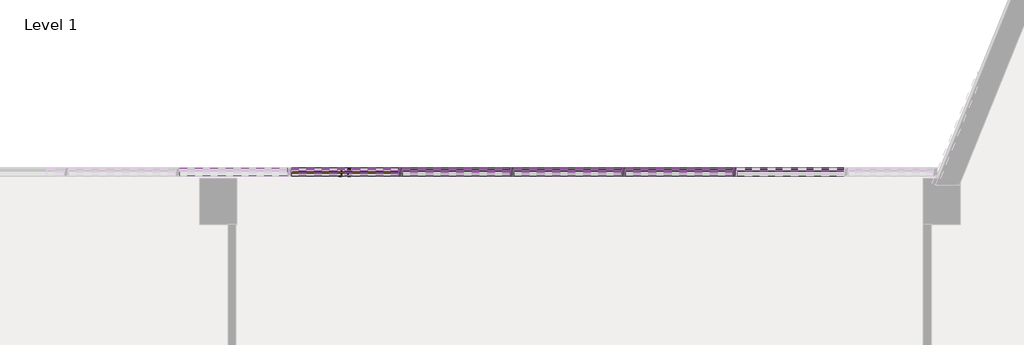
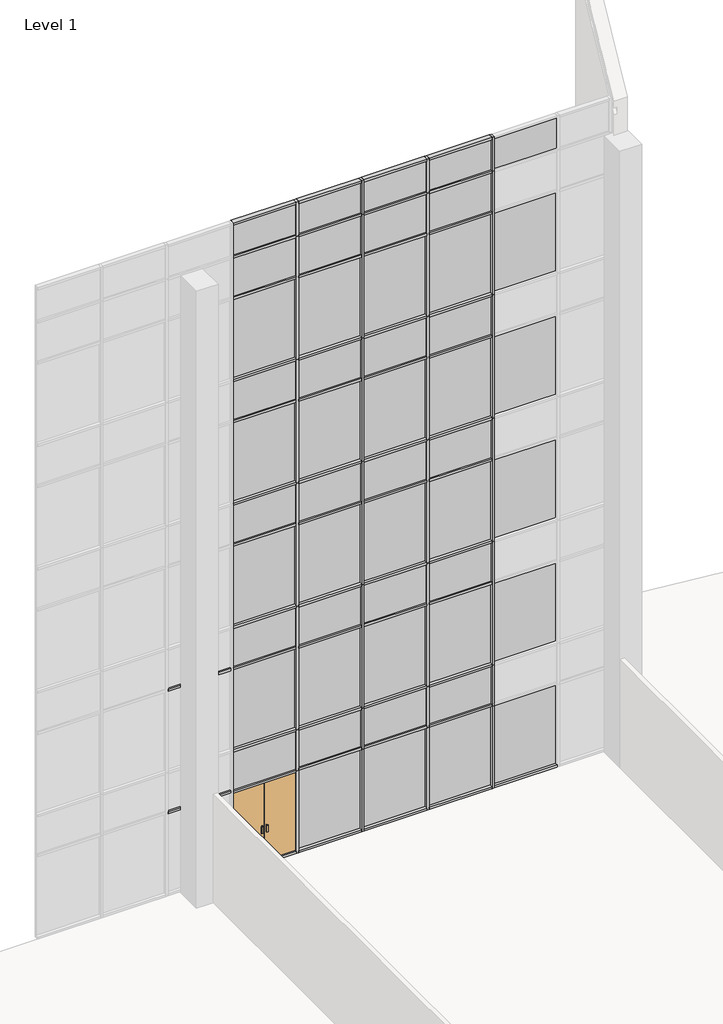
# One storey, part 14 of 23: 79 members, 49 plates, 1 door.
"""IFC4 building model written with IfcOpenShell, lengths in millimetres."""

from ifc_helpers import new_model, si_unit, origin, place, context, project, spatial, transform, mapped, element, save
from components import curtain_wall_dbl_glass_curtain_wall_dbl_glass_821f5a63, member_2b49869a, member_f92b8aa2, member_810865a4, member_f0fea5a5, member_6d5c3e5e, member_9764dd38, system_panel_glazed_14c75400, system_panel_solid_5dfe6f83, system_panel_solid_e25e2004, system_panel_solid_b7551183

model = new_model("IFC4")

# Units and contexts
model_context = context("Model", 3, world=origin())
ifc_project = project(units=[si_unit("LENGTHUNIT", "METRE", prefix="MILLI")], contexts=[model_context])

# Site, building, storey
site = spatial("IfcSite", under=ifc_project)
building = spatial("IfcBuilding", under=site)
storey = spatial("IfcBuildingStorey", under=building, Name="Level 1", Elevation=0.0)

# Door
placement = place(None, origin())
curtain_wall_dbl_glass_curtain_wall_dbl_glass_shape = curtain_wall_dbl_glass_curtain_wall_dbl_glass_821f5a63(model_context)
element("IfcDoor", 1, ObjectType="Curtain Wall Dbl Glass : Curtain Wall Dbl Glass", at=placement, inside=storey, context=model_context, shape_type="MappedRepresentation", body=[
    mapped(curtain_wall_dbl_glass_curtain_wall_dbl_glass_shape, transform((-42545.8623649, 10017.7896508, 63.5), x_axis=(1.0, 0.0, 0.0), y_axis=(0.0, 1.0, 0.0), z_axis=(0.0, 0.0, 1.0))),
])

# Members
member_shape = member_2b49869a(model_context)
element("IfcMember", 2, ObjectType="Rectangular Mullion : 2.5\" x 5\" rectangular", at=placement, inside=storey, context=model_context, shape_type="MappedRepresentation", body=[
    mapped(member_shape, transform((-37973.8623649, 10017.7896508, 2438.4), x_axis=(1.0, 0.0, 0.0), y_axis=(0.0, -1.0, 0.0), z_axis=(0.0, 0.0, -1.0))),
])
element("IfcMember", 3, ObjectType="Rectangular Mullion : 2.5\" x 5\" rectangular", at=placement, inside=storey, context=model_context, shape_type="MappedRepresentation", body=[
    mapped(member_shape, transform((-39802.6623649, 10017.7896508, 2438.4), x_axis=(1.0, 0.0, 0.0), y_axis=(0.0, -1.0, 0.0), z_axis=(0.0, 0.0, -1.0))),
])
element("IfcMember", 4, ObjectType="Rectangular Mullion : 2.5\" x 5\" rectangular", at=placement, inside=storey, context=model_context, shape_type="MappedRepresentation", body=[
    mapped(member_shape, transform((-36145.0623649, 10017.7896508, 2438.4), x_axis=(1.0, 0.0, 0.0), y_axis=(0.0, -1.0, 0.0), z_axis=(0.0, 0.0, -1.0))),
])
member_2_shape = member_f92b8aa2(model_context)
element("IfcMember", 5, ObjectType="Rectangular Mullion : 2.5\" x 5\" rectangular", at=placement, inside=storey, context=model_context, shape_type="MappedRepresentation", body=[
    mapped(member_2_shape, transform((-37973.8623649, 10017.7896508, 18288.0), x_axis=(1.0, 0.0, 0.0), y_axis=(0.0, -1.0, 0.0), z_axis=(0.0, 0.0, -1.0))),
])
element("IfcMember", 6, ObjectType="Rectangular Mullion : 2.5\" x 5\" rectangular", at=placement, inside=storey, context=model_context, shape_type="MappedRepresentation", body=[
    mapped(member_2_shape, transform((-39802.6623649, 10017.7896508, 18288.0), x_axis=(1.0, 0.0, 0.0), y_axis=(0.0, -1.0, 0.0), z_axis=(0.0, 0.0, -1.0))),
])
element("IfcMember", 7, ObjectType="Rectangular Mullion : 2.5\" x 5\" rectangular", at=placement, inside=storey, context=model_context, shape_type="MappedRepresentation", body=[
    mapped(member_2_shape, transform((-41631.4623649, 10017.7896508, 18288.0), x_axis=(1.0, 0.0, 0.0), y_axis=(0.0, -1.0, 0.0), z_axis=(0.0, 0.0, -1.0))),
])
element("IfcMember", 8, ObjectType="Rectangular Mullion : 2.5\" x 5\" rectangular", at=placement, inside=storey, context=model_context, shape_type="MappedRepresentation", body=[
    mapped(member_2_shape, transform((-36145.0623649, 10017.7896508, 18288.0), x_axis=(1.0, 0.0, 0.0), y_axis=(0.0, -1.0, 0.0), z_axis=(0.0, 0.0, -1.0))),
])
member_3_shape = member_810865a4(model_context)
element("IfcMember", 9, ObjectType="Rectangular Mullion : 2.5\" x 5\" rectangular", at=placement, inside=storey, context=model_context, shape_type="MappedRepresentation", body=[
    mapped(member_3_shape, transform((-36145.0623649, 10017.7896508, 14630.4), x_axis=(1.0, 0.0, 0.0), y_axis=(0.0, -1.0, 0.0), z_axis=(0.0, 0.0, -1.0))),
])
element("IfcMember", 10, ObjectType="Rectangular Mullion : 2.5\" x 5\" rectangular", at=placement, inside=storey, context=model_context, shape_type="MappedRepresentation", body=[
    mapped(member_3_shape, transform((-36145.0623649, 10017.7896508, 10972.8), x_axis=(1.0, 0.0, 0.0), y_axis=(0.0, -1.0, 0.0), z_axis=(0.0, 0.0, -1.0))),
])
element("IfcMember", 11, ObjectType="Rectangular Mullion : 2.5\" x 5\" rectangular", at=placement, inside=storey, context=model_context, shape_type="MappedRepresentation", body=[
    mapped(member_3_shape, transform((-36145.0623649, 10017.7896508, 7315.2), x_axis=(1.0, 0.0, 0.0), y_axis=(0.0, -1.0, 0.0), z_axis=(0.0, 0.0, -1.0))),
])
element("IfcMember", 12, ObjectType="Rectangular Mullion : 2.5\" x 5\" rectangular", at=placement, inside=storey, context=model_context, shape_type="MappedRepresentation", body=[
    mapped(member_3_shape, transform((-36145.0623649, 10017.7896508, 3657.6), x_axis=(1.0, 0.0, 0.0), y_axis=(0.0, -1.0, 0.0), z_axis=(0.0, 0.0, -1.0))),
])
element("IfcMember", 13, ObjectType="Rectangular Mullion : 2.5\" x 5\" rectangular", at=placement, inside=storey, context=model_context, shape_type="MappedRepresentation", body=[
    mapped(member_3_shape, transform((-37973.8623649, 10017.7896508, 14630.4), x_axis=(1.0, 0.0, 0.0), y_axis=(0.0, -1.0, 0.0), z_axis=(0.0, 0.0, -1.0))),
])
element("IfcMember", 14, ObjectType="Rectangular Mullion : 2.5\" x 5\" rectangular", at=placement, inside=storey, context=model_context, shape_type="MappedRepresentation", body=[
    mapped(member_3_shape, transform((-37973.8623649, 10017.7896508, 10972.8), x_axis=(1.0, 0.0, 0.0), y_axis=(0.0, -1.0, 0.0), z_axis=(0.0, 0.0, -1.0))),
])
element("IfcMember", 15, ObjectType="Rectangular Mullion : 2.5\" x 5\" rectangular", at=placement, inside=storey, context=model_context, shape_type="MappedRepresentation", body=[
    mapped(member_3_shape, transform((-37973.8623649, 10017.7896508, 7315.2), x_axis=(1.0, 0.0, 0.0), y_axis=(0.0, -1.0, 0.0), z_axis=(0.0, 0.0, -1.0))),
])
element("IfcMember", 16, ObjectType="Rectangular Mullion : 2.5\" x 5\" rectangular", at=placement, inside=storey, context=model_context, shape_type="MappedRepresentation", body=[
    mapped(member_3_shape, transform((-37973.8623649, 10017.7896508, 3657.6), x_axis=(1.0, 0.0, 0.0), y_axis=(0.0, -1.0, 0.0), z_axis=(0.0, 0.0, -1.0))),
])
element("IfcMember", 17, ObjectType="Rectangular Mullion : 2.5\" x 5\" rectangular", at=placement, inside=storey, context=model_context, shape_type="MappedRepresentation", body=[
    mapped(member_3_shape, transform((-39802.6623649, 10017.7896508, 14630.4), x_axis=(1.0, 0.0, 0.0), y_axis=(0.0, -1.0, 0.0), z_axis=(0.0, 0.0, -1.0))),
])
element("IfcMember", 18, ObjectType="Rectangular Mullion : 2.5\" x 5\" rectangular", at=placement, inside=storey, context=model_context, shape_type="MappedRepresentation", body=[
    mapped(member_3_shape, transform((-39802.6623649, 10017.7896508, 10972.8), x_axis=(1.0, 0.0, 0.0), y_axis=(0.0, -1.0, 0.0), z_axis=(0.0, 0.0, -1.0))),
])
element("IfcMember", 19, ObjectType="Rectangular Mullion : 2.5\" x 5\" rectangular", at=placement, inside=storey, context=model_context, shape_type="MappedRepresentation", body=[
    mapped(member_3_shape, transform((-39802.6623649, 10017.7896508, 7315.2), x_axis=(1.0, 0.0, 0.0), y_axis=(0.0, -1.0, 0.0), z_axis=(0.0, 0.0, -1.0))),
])
element("IfcMember", 20, ObjectType="Rectangular Mullion : 2.5\" x 5\" rectangular", at=placement, inside=storey, context=model_context, shape_type="MappedRepresentation", body=[
    mapped(member_3_shape, transform((-39802.6623649, 10017.7896508, 3657.6), x_axis=(1.0, 0.0, 0.0), y_axis=(0.0, -1.0, 0.0), z_axis=(0.0, 0.0, -1.0))),
])
element("IfcMember", 21, ObjectType="Rectangular Mullion : 2.5\" x 5\" rectangular", at=placement, inside=storey, context=model_context, shape_type="MappedRepresentation", body=[
    mapped(member_3_shape, transform((-41631.4623649, 10017.7896508, 14630.4), x_axis=(1.0, 0.0, 0.0), y_axis=(0.0, -1.0, 0.0), z_axis=(0.0, 0.0, -1.0))),
])
element("IfcMember", 22, ObjectType="Rectangular Mullion : 2.5\" x 5\" rectangular", at=placement, inside=storey, context=model_context, shape_type="MappedRepresentation", body=[
    mapped(member_3_shape, transform((-41631.4623649, 10017.7896508, 10972.8), x_axis=(1.0, 0.0, 0.0), y_axis=(0.0, -1.0, 0.0), z_axis=(0.0, 0.0, -1.0))),
])
element("IfcMember", 23, ObjectType="Rectangular Mullion : 2.5\" x 5\" rectangular", at=placement, inside=storey, context=model_context, shape_type="MappedRepresentation", body=[
    mapped(member_3_shape, transform((-41631.4623649, 10017.7896508, 7315.2), x_axis=(1.0, 0.0, 0.0), y_axis=(0.0, -1.0, 0.0), z_axis=(0.0, 0.0, -1.0))),
])
element("IfcMember", 24, ObjectType="Rectangular Mullion : 2.5\" x 5\" rectangular", at=placement, inside=storey, context=model_context, shape_type="MappedRepresentation", body=[
    mapped(member_3_shape, transform((-41631.4623649, 10017.7896508, 3657.6), x_axis=(1.0, 0.0, 0.0), y_axis=(0.0, -1.0, 0.0), z_axis=(0.0, 0.0, -1.0))),
])
member_4_shape = member_f0fea5a5(model_context)
element("IfcMember", 25, ObjectType="Rectangular Mullion : 2.5\" x 5\" rectangular", at=placement, inside=storey, context=model_context, shape_type="MappedRepresentation", body=[
    mapped(member_4_shape, transform((-36145.0623649, 10017.7896508, 0.0), x_axis=(1.0, 0.0, 0.0), y_axis=(0.0, -1.0, 0.0), z_axis=(0.0, 0.0, -1.0))),
])
element("IfcMember", 26, ObjectType="Rectangular Mullion : 2.5\" x 5\" rectangular", at=placement, inside=storey, context=model_context, shape_type="MappedRepresentation", body=[
    mapped(member_4_shape, transform((-37973.8623649, 10017.7896508, 0.0), x_axis=(1.0, 0.0, 0.0), y_axis=(0.0, -1.0, 0.0), z_axis=(0.0, 0.0, -1.0))),
])
element("IfcMember", 27, ObjectType="Rectangular Mullion : 2.5\" x 5\" rectangular", at=placement, inside=storey, context=model_context, shape_type="MappedRepresentation", body=[
    mapped(member_4_shape, transform((-39802.6623649, 10017.7896508, 0.0), x_axis=(1.0, 0.0, 0.0), y_axis=(0.0, -1.0, 0.0), z_axis=(0.0, 0.0, -1.0))),
])
element("IfcMember", 28, ObjectType="Rectangular Mullion : 2.5\" x 5\" rectangular", at=placement, inside=storey, context=model_context, shape_type="MappedRepresentation", body=[
    mapped(member_4_shape, transform((-41631.4623649, 10017.7896508, 0.0), x_axis=(1.0, 0.0, 0.0), y_axis=(0.0, -1.0, 0.0), z_axis=(0.0, 0.0, -1.0))),
])
element("IfcMember", 29, ObjectType="Rectangular Mullion : 2.5\" x 5\" rectangular", at=placement, inside=storey, context=model_context, shape_type="MappedRepresentation", body=[
    mapped(member_shape, transform((-41631.4623649, 10017.7896508, 2438.4), x_axis=(1.0, 0.0, 0.0), y_axis=(0.0, -1.0, 0.0), z_axis=(0.0, 0.0, -1.0))),
])
member_5_shape = member_6d5c3e5e(model_context)
element("IfcMember", 30, ObjectType="Rectangular Mullion : 2.5\" x 5\" rectangular", at=placement, inside=storey, context=model_context, shape_type="MappedRepresentation", body=[
    mapped(member_5_shape, transform((-36176.8123649, 10017.7896508, 19304.0), x_axis=(0.0, 0.0, 1.0), y_axis=(0.0, -1.0, 0.0), z_axis=(1.0, 0.0, 0.0))),
])
element("IfcMember", 31, ObjectType="Rectangular Mullion : 2.5\" x 5\" rectangular", at=placement, inside=storey, context=model_context, shape_type="MappedRepresentation", body=[
    mapped(member_5_shape, transform((-38005.6123649, 10017.7896508, 19304.0), x_axis=(0.0, 0.0, 1.0), y_axis=(0.0, -1.0, 0.0), z_axis=(1.0, 0.0, 0.0))),
])
element("IfcMember", 32, ObjectType="Rectangular Mullion : 2.5\" x 5\" rectangular", at=placement, inside=storey, context=model_context, shape_type="MappedRepresentation", body=[
    mapped(member_5_shape, transform((-39834.4123649, 10017.7896508, 19304.0), x_axis=(0.0, 0.0, 1.0), y_axis=(0.0, -1.0, 0.0), z_axis=(1.0, 0.0, 0.0))),
])
element("IfcMember", 33, ObjectType="Rectangular Mullion : 2.5\" x 5\" rectangular", at=placement, inside=storey, context=model_context, shape_type="MappedRepresentation", body=[
    mapped(member_5_shape, transform((-41663.2123649, 10017.7896508, 19304.0), x_axis=(0.0, 0.0, 1.0), y_axis=(0.0, -1.0, 0.0), z_axis=(1.0, 0.0, 0.0))),
])
member_6_shape = member_9764dd38(model_context)
element("IfcMember", 34, ObjectType="Rectangular Mullion : 2.5\" x 5\" rectangular", at=placement, inside=storey, context=model_context, shape_type="MappedRepresentation", body=[
    mapped(member_6_shape, transform((-36176.8123649, 10017.7896508, 17068.8), x_axis=(0.0, 0.0, 1.0), y_axis=(0.0, -1.0, 0.0), z_axis=(1.0, 0.0, 0.0))),
])
element("IfcMember", 35, ObjectType="Rectangular Mullion : 2.5\" x 5\" rectangular", at=placement, inside=storey, context=model_context, shape_type="MappedRepresentation", body=[
    mapped(member_6_shape, transform((-38005.6123649, 10017.7896508, 17068.8), x_axis=(0.0, 0.0, 1.0), y_axis=(0.0, -1.0, 0.0), z_axis=(1.0, 0.0, 0.0))),
])
element("IfcMember", 36, ObjectType="Rectangular Mullion : 2.5\" x 5\" rectangular", at=placement, inside=storey, context=model_context, shape_type="MappedRepresentation", body=[
    mapped(member_6_shape, transform((-39834.4123649, 10017.7896508, 17068.8), x_axis=(0.0, 0.0, 1.0), y_axis=(0.0, -1.0, 0.0), z_axis=(1.0, 0.0, 0.0))),
])
element("IfcMember", 37, ObjectType="Rectangular Mullion : 2.5\" x 5\" rectangular", at=placement, inside=storey, context=model_context, shape_type="MappedRepresentation", body=[
    mapped(member_6_shape, transform((-41663.2123649, 10017.7896508, 17068.8), x_axis=(0.0, 0.0, 1.0), y_axis=(0.0, -1.0, 0.0), z_axis=(1.0, 0.0, 0.0))),
])
element("IfcMember", 38, ObjectType="Rectangular Mullion : 2.5\" x 5\" rectangular", at=placement, inside=storey, context=model_context, shape_type="MappedRepresentation", body=[
    mapped(member_6_shape, transform((-36176.8123649, 10017.7896508, 13411.2), x_axis=(0.0, 0.0, 1.0), y_axis=(0.0, -1.0, 0.0), z_axis=(1.0, 0.0, 0.0))),
])
element("IfcMember", 39, ObjectType="Rectangular Mullion : 2.5\" x 5\" rectangular", at=placement, inside=storey, context=model_context, shape_type="MappedRepresentation", body=[
    mapped(member_6_shape, transform((-38005.6123649, 10017.7896508, 13411.2), x_axis=(0.0, 0.0, 1.0), y_axis=(0.0, -1.0, 0.0), z_axis=(1.0, 0.0, 0.0))),
])
element("IfcMember", 40, ObjectType="Rectangular Mullion : 2.5\" x 5\" rectangular", at=placement, inside=storey, context=model_context, shape_type="MappedRepresentation", body=[
    mapped(member_6_shape, transform((-39834.4123649, 10017.7896508, 13411.2), x_axis=(0.0, 0.0, 1.0), y_axis=(0.0, -1.0, 0.0), z_axis=(1.0, 0.0, 0.0))),
])
element("IfcMember", 41, ObjectType="Rectangular Mullion : 2.5\" x 5\" rectangular", at=placement, inside=storey, context=model_context, shape_type="MappedRepresentation", body=[
    mapped(member_6_shape, transform((-41663.2123649, 10017.7896508, 13411.2), x_axis=(0.0, 0.0, 1.0), y_axis=(0.0, -1.0, 0.0), z_axis=(1.0, 0.0, 0.0))),
])
element("IfcMember", 42, ObjectType="Rectangular Mullion : 2.5\" x 5\" rectangular", at=placement, inside=storey, context=model_context, shape_type="MappedRepresentation", body=[
    mapped(member_6_shape, transform((-36176.8123649, 10017.7896508, 9753.6), x_axis=(0.0, 0.0, 1.0), y_axis=(0.0, -1.0, 0.0), z_axis=(1.0, 0.0, 0.0))),
])
element("IfcMember", 43, ObjectType="Rectangular Mullion : 2.5\" x 5\" rectangular", at=placement, inside=storey, context=model_context, shape_type="MappedRepresentation", body=[
    mapped(member_6_shape, transform((-38005.6123649, 10017.7896508, 9753.6), x_axis=(0.0, 0.0, 1.0), y_axis=(0.0, -1.0, 0.0), z_axis=(1.0, 0.0, 0.0))),
])
element("IfcMember", 44, ObjectType="Rectangular Mullion : 2.5\" x 5\" rectangular", at=placement, inside=storey, context=model_context, shape_type="MappedRepresentation", body=[
    mapped(member_6_shape, transform((-39834.4123649, 10017.7896508, 9753.6), x_axis=(0.0, 0.0, 1.0), y_axis=(0.0, -1.0, 0.0), z_axis=(1.0, 0.0, 0.0))),
])
element("IfcMember", 45, ObjectType="Rectangular Mullion : 2.5\" x 5\" rectangular", at=placement, inside=storey, context=model_context, shape_type="MappedRepresentation", body=[
    mapped(member_6_shape, transform((-41663.2123649, 10017.7896508, 9753.6), x_axis=(0.0, 0.0, 1.0), y_axis=(0.0, -1.0, 0.0), z_axis=(1.0, 0.0, 0.0))),
])
element("IfcMember", 46, ObjectType="Rectangular Mullion : 2.5\" x 5\" rectangular", at=placement, inside=storey, context=model_context, shape_type="MappedRepresentation", body=[
    mapped(member_6_shape, transform((-36176.8123649, 10017.7896508, 6096.0), x_axis=(0.0, 0.0, 1.0), y_axis=(0.0, -1.0, 0.0), z_axis=(1.0, 0.0, 0.0))),
])
element("IfcMember", 47, ObjectType="Rectangular Mullion : 2.5\" x 5\" rectangular", at=placement, inside=storey, context=model_context, shape_type="MappedRepresentation", body=[
    mapped(member_6_shape, transform((-38005.6123649, 10017.7896508, 6096.0), x_axis=(0.0, 0.0, 1.0), y_axis=(0.0, -1.0, 0.0), z_axis=(1.0, 0.0, 0.0))),
])
element("IfcMember", 48, ObjectType="Rectangular Mullion : 2.5\" x 5\" rectangular", at=placement, inside=storey, context=model_context, shape_type="MappedRepresentation", body=[
    mapped(member_6_shape, transform((-39834.4123649, 10017.7896508, 6096.0), x_axis=(0.0, 0.0, 1.0), y_axis=(0.0, -1.0, 0.0), z_axis=(1.0, 0.0, 0.0))),
])
element("IfcMember", 49, ObjectType="Rectangular Mullion : 2.5\" x 5\" rectangular", at=placement, inside=storey, context=model_context, shape_type="MappedRepresentation", body=[
    mapped(member_6_shape, transform((-41663.2123649, 10017.7896508, 6096.0), x_axis=(0.0, 0.0, 1.0), y_axis=(0.0, -1.0, 0.0), z_axis=(1.0, 0.0, 0.0))),
])
element("IfcMember", 50, ObjectType="Rectangular Mullion : 2.5\" x 5\" rectangular", at=placement, inside=storey, context=model_context, shape_type="MappedRepresentation", body=[
    mapped(member_6_shape, transform((-43492.0123649, 10017.7896508, 6096.0), x_axis=(0.0, 0.0, 1.0), y_axis=(0.0, -1.0, 0.0), z_axis=(1.0, 0.0, 0.0))),
])
element("IfcMember", 51, ObjectType="Rectangular Mullion : 2.5\" x 5\" rectangular", at=placement, inside=storey, context=model_context, shape_type="MappedRepresentation", body=[
    mapped(member_6_shape, transform((-36176.8123649, 10017.7896508, 2470.15), x_axis=(0.0, 0.0, 1.0), y_axis=(0.0, -1.0, 0.0), z_axis=(1.0, 0.0, 0.0))),
])
element("IfcMember", 52, ObjectType="Rectangular Mullion : 2.5\" x 5\" rectangular", at=placement, inside=storey, context=model_context, shape_type="MappedRepresentation", body=[
    mapped(member_6_shape, transform((-38005.6123649, 10017.7896508, 2470.15), x_axis=(0.0, 0.0, 1.0), y_axis=(0.0, -1.0, 0.0), z_axis=(1.0, 0.0, 0.0))),
])
element("IfcMember", 53, ObjectType="Rectangular Mullion : 2.5\" x 5\" rectangular", at=placement, inside=storey, context=model_context, shape_type="MappedRepresentation", body=[
    mapped(member_6_shape, transform((-39834.4123649, 10017.7896508, 2470.15), x_axis=(0.0, 0.0, 1.0), y_axis=(0.0, -1.0, 0.0), z_axis=(1.0, 0.0, 0.0))),
])
element("IfcMember", 54, ObjectType="Rectangular Mullion : 2.5\" x 5\" rectangular", at=placement, inside=storey, context=model_context, shape_type="MappedRepresentation", body=[
    mapped(member_6_shape, transform((-43492.0123649, 10017.7896508, 2470.15), x_axis=(0.0, 0.0, 1.0), y_axis=(0.0, -1.0, 0.0), z_axis=(1.0, 0.0, 0.0))),
])
element("IfcMember", 55, ObjectType="Rectangular Mullion : 2.5\" x 5\" rectangular", at=placement, inside=storey, context=model_context, shape_type="MappedRepresentation", body=[
    mapped(member_5_shape, transform((-36113.3123649, 10017.7896508, 0.0), x_axis=(0.0, 0.0, -1.0), y_axis=(0.0, -1.0, 0.0), z_axis=(-1.0, 0.0, 0.0))),
])
element("IfcMember", 56, ObjectType="Rectangular Mullion : 2.5\" x 5\" rectangular", at=placement, inside=storey, context=model_context, shape_type="MappedRepresentation", body=[
    mapped(member_5_shape, transform((-37942.1123649, 10017.7896508, 0.0), x_axis=(0.0, 0.0, -1.0), y_axis=(0.0, -1.0, 0.0), z_axis=(-1.0, 0.0, 0.0))),
])
element("IfcMember", 57, ObjectType="Rectangular Mullion : 2.5\" x 5\" rectangular", at=placement, inside=storey, context=model_context, shape_type="MappedRepresentation", body=[
    mapped(member_5_shape, transform((-39770.9123649, 10017.7896508, 0.0), x_axis=(0.0, 0.0, -1.0), y_axis=(0.0, -1.0, 0.0), z_axis=(-1.0, 0.0, 0.0))),
])
element("IfcMember", 58, ObjectType="Rectangular Mullion : 2.5\" x 5\" rectangular", at=placement, inside=storey, context=model_context, shape_type="MappedRepresentation", body=[
    mapped(member_5_shape, transform((-41599.7123649, 10017.7896508, 0.0), x_axis=(0.0, 0.0, -1.0), y_axis=(0.0, -1.0, 0.0), z_axis=(-1.0, 0.0, 0.0))),
])
element("IfcMember", 59, ObjectType="Rectangular Mullion : 2.5\" x 5\" rectangular", at=placement, inside=storey, context=model_context, shape_type="MappedRepresentation", body=[
    mapped(member_5_shape, transform((-43428.5123649, 10017.7896508, 0.0), x_axis=(0.0, 0.0, -1.0), y_axis=(0.0, -1.0, 0.0), z_axis=(-1.0, 0.0, 0.0))),
])
element("IfcMember", 60, ObjectType="Rectangular Mullion : 2.5\" x 5\" rectangular", at=placement, inside=storey, context=model_context, shape_type="MappedRepresentation", body=[
    mapped(member_6_shape, transform((-36176.8123649, 10017.7896508, 10972.8), x_axis=(0.0, 0.0, 1.0), y_axis=(0.0, -1.0, 0.0), z_axis=(1.0, 0.0, 0.0))),
])
element("IfcMember", 61, ObjectType="Rectangular Mullion : 2.5\" x 5\" rectangular", at=placement, inside=storey, context=model_context, shape_type="MappedRepresentation", body=[
    mapped(member_6_shape, transform((-38005.6123649, 10017.7896508, 10972.8), x_axis=(0.0, 0.0, 1.0), y_axis=(0.0, -1.0, 0.0), z_axis=(1.0, 0.0, 0.0))),
])
element("IfcMember", 62, ObjectType="Rectangular Mullion : 2.5\" x 5\" rectangular", at=placement, inside=storey, context=model_context, shape_type="MappedRepresentation", body=[
    mapped(member_6_shape, transform((-39834.4123649, 10017.7896508, 10972.8), x_axis=(0.0, 0.0, 1.0), y_axis=(0.0, -1.0, 0.0), z_axis=(1.0, 0.0, 0.0))),
])
element("IfcMember", 63, ObjectType="Rectangular Mullion : 2.5\" x 5\" rectangular", at=placement, inside=storey, context=model_context, shape_type="MappedRepresentation", body=[
    mapped(member_6_shape, transform((-41663.2123649, 10017.7896508, 10972.8), x_axis=(0.0, 0.0, 1.0), y_axis=(0.0, -1.0, 0.0), z_axis=(1.0, 0.0, 0.0))),
])
element("IfcMember", 64, ObjectType="Rectangular Mullion : 2.5\" x 5\" rectangular", at=placement, inside=storey, context=model_context, shape_type="MappedRepresentation", body=[
    mapped(member_6_shape, transform((-36176.8123649, 10017.7896508, 7315.2), x_axis=(0.0, 0.0, 1.0), y_axis=(0.0, -1.0, 0.0), z_axis=(1.0, 0.0, 0.0))),
])
element("IfcMember", 65, ObjectType="Rectangular Mullion : 2.5\" x 5\" rectangular", at=placement, inside=storey, context=model_context, shape_type="MappedRepresentation", body=[
    mapped(member_6_shape, transform((-38005.6123649, 10017.7896508, 7315.2), x_axis=(0.0, 0.0, 1.0), y_axis=(0.0, -1.0, 0.0), z_axis=(1.0, 0.0, 0.0))),
])
element("IfcMember", 66, ObjectType="Rectangular Mullion : 2.5\" x 5\" rectangular", at=placement, inside=storey, context=model_context, shape_type="MappedRepresentation", body=[
    mapped(member_6_shape, transform((-39834.4123649, 10017.7896508, 7315.2), x_axis=(0.0, 0.0, 1.0), y_axis=(0.0, -1.0, 0.0), z_axis=(1.0, 0.0, 0.0))),
])
element("IfcMember", 67, ObjectType="Rectangular Mullion : 2.5\" x 5\" rectangular", at=placement, inside=storey, context=model_context, shape_type="MappedRepresentation", body=[
    mapped(member_6_shape, transform((-41663.2123649, 10017.7896508, 7315.2), x_axis=(0.0, 0.0, 1.0), y_axis=(0.0, -1.0, 0.0), z_axis=(1.0, 0.0, 0.0))),
])
element("IfcMember", 68, ObjectType="Rectangular Mullion : 2.5\" x 5\" rectangular", at=placement, inside=storey, context=model_context, shape_type="MappedRepresentation", body=[
    mapped(member_6_shape, transform((-36176.8123649, 10017.7896508, 18288.0), x_axis=(0.0, 0.0, 1.0), y_axis=(0.0, -1.0, 0.0), z_axis=(1.0, 0.0, 0.0))),
])
element("IfcMember", 69, ObjectType="Rectangular Mullion : 2.5\" x 5\" rectangular", at=placement, inside=storey, context=model_context, shape_type="MappedRepresentation", body=[
    mapped(member_6_shape, transform((-38005.6123649, 10017.7896508, 18288.0), x_axis=(0.0, 0.0, 1.0), y_axis=(0.0, -1.0, 0.0), z_axis=(1.0, 0.0, 0.0))),
])
element("IfcMember", 70, ObjectType="Rectangular Mullion : 2.5\" x 5\" rectangular", at=placement, inside=storey, context=model_context, shape_type="MappedRepresentation", body=[
    mapped(member_6_shape, transform((-39834.4123649, 10017.7896508, 18288.0), x_axis=(0.0, 0.0, 1.0), y_axis=(0.0, -1.0, 0.0), z_axis=(1.0, 0.0, 0.0))),
])
element("IfcMember", 71, ObjectType="Rectangular Mullion : 2.5\" x 5\" rectangular", at=placement, inside=storey, context=model_context, shape_type="MappedRepresentation", body=[
    mapped(member_6_shape, transform((-41663.2123649, 10017.7896508, 18288.0), x_axis=(0.0, 0.0, 1.0), y_axis=(0.0, -1.0, 0.0), z_axis=(1.0, 0.0, 0.0))),
])
element("IfcMember", 72, ObjectType="Rectangular Mullion : 2.5\" x 5\" rectangular", at=placement, inside=storey, context=model_context, shape_type="MappedRepresentation", body=[
    mapped(member_6_shape, transform((-36176.8123649, 10017.7896508, 14630.4), x_axis=(0.0, 0.0, 1.0), y_axis=(0.0, -1.0, 0.0), z_axis=(1.0, 0.0, 0.0))),
])
element("IfcMember", 73, ObjectType="Rectangular Mullion : 2.5\" x 5\" rectangular", at=placement, inside=storey, context=model_context, shape_type="MappedRepresentation", body=[
    mapped(member_6_shape, transform((-38005.6123649, 10017.7896508, 14630.4), x_axis=(0.0, 0.0, 1.0), y_axis=(0.0, -1.0, 0.0), z_axis=(1.0, 0.0, 0.0))),
])
element("IfcMember", 74, ObjectType="Rectangular Mullion : 2.5\" x 5\" rectangular", at=placement, inside=storey, context=model_context, shape_type="MappedRepresentation", body=[
    mapped(member_6_shape, transform((-39834.4123649, 10017.7896508, 14630.4), x_axis=(0.0, 0.0, 1.0), y_axis=(0.0, -1.0, 0.0), z_axis=(1.0, 0.0, 0.0))),
])
element("IfcMember", 75, ObjectType="Rectangular Mullion : 2.5\" x 5\" rectangular", at=placement, inside=storey, context=model_context, shape_type="MappedRepresentation", body=[
    mapped(member_6_shape, transform((-41663.2123649, 10017.7896508, 14630.4), x_axis=(0.0, 0.0, 1.0), y_axis=(0.0, -1.0, 0.0), z_axis=(1.0, 0.0, 0.0))),
])
element("IfcMember", 76, ObjectType="Rectangular Mullion : 2.5\" x 5\" rectangular", at=placement, inside=storey, context=model_context, shape_type="MappedRepresentation", body=[
    mapped(member_6_shape, transform((-36176.8123649, 10017.7896508, 3657.6), x_axis=(0.0, 0.0, 1.0), y_axis=(0.0, -1.0, 0.0), z_axis=(1.0, 0.0, 0.0))),
])
element("IfcMember", 77, ObjectType="Rectangular Mullion : 2.5\" x 5\" rectangular", at=placement, inside=storey, context=model_context, shape_type="MappedRepresentation", body=[
    mapped(member_6_shape, transform((-38005.6123649, 10017.7896508, 3657.6), x_axis=(0.0, 0.0, 1.0), y_axis=(0.0, -1.0, 0.0), z_axis=(1.0, 0.0, 0.0))),
])
element("IfcMember", 78, ObjectType="Rectangular Mullion : 2.5\" x 5\" rectangular", at=placement, inside=storey, context=model_context, shape_type="MappedRepresentation", body=[
    mapped(member_6_shape, transform((-39834.4123649, 10017.7896508, 3657.6), x_axis=(0.0, 0.0, 1.0), y_axis=(0.0, -1.0, 0.0), z_axis=(1.0, 0.0, 0.0))),
])
element("IfcMember", 79, ObjectType="Rectangular Mullion : 2.5\" x 5\" rectangular", at=placement, inside=storey, context=model_context, shape_type="MappedRepresentation", body=[
    mapped(member_6_shape, transform((-41663.2123649, 10017.7896508, 3657.6), x_axis=(0.0, 0.0, 1.0), y_axis=(0.0, -1.0, 0.0), z_axis=(1.0, 0.0, 0.0))),
])
element("IfcMember", 80, ObjectType="Rectangular Mullion : 2.5\" x 5\" rectangular", at=placement, inside=storey, context=model_context, shape_type="MappedRepresentation", body=[
    mapped(member_6_shape, transform((-41663.2123649, 10017.7896508, 2438.4), x_axis=(0.0, 0.0, 1.0), y_axis=(0.0, -1.0, 0.0), z_axis=(1.0, 0.0, 0.0))),
])

# Plates
system_panel_glazed_shape = system_panel_glazed_14c75400(model_context)
element("IfcPlate", 81, ObjectType="System Panel : Glazed", at=placement, inside=storey, context=model_context, shape_type="MappedRepresentation", body=[
    mapped(system_panel_glazed_shape, transform((-35230.6623649, 10017.7896508, 14662.15), x_axis=(1.0, 0.0, 0.0), y_axis=(0.0, 1.0, 0.0), z_axis=(0.0, 0.0, 1.0))),
])
element("IfcPlate", 82, ObjectType="System Panel : Glazed", at=placement, inside=storey, context=model_context, shape_type="MappedRepresentation", body=[
    mapped(system_panel_glazed_shape, transform((-37059.4623649, 10017.7896508, 14662.15), x_axis=(1.0, 0.0, 0.0), y_axis=(0.0, 1.0, 0.0), z_axis=(0.0, 0.0, 1.0))),
])
element("IfcPlate", 83, ObjectType="System Panel : Glazed", at=placement, inside=storey, context=model_context, shape_type="MappedRepresentation", body=[
    mapped(system_panel_glazed_shape, transform((-38888.2623649, 10017.7896508, 14662.15), x_axis=(1.0, 0.0, 0.0), y_axis=(0.0, 1.0, 0.0), z_axis=(0.0, 0.0, 1.0))),
])
element("IfcPlate", 84, ObjectType="System Panel : Glazed", at=placement, inside=storey, context=model_context, shape_type="MappedRepresentation", body=[
    mapped(system_panel_glazed_shape, transform((-40717.0623649, 10017.7896508, 14662.15), x_axis=(1.0, 0.0, 0.0), y_axis=(0.0, 1.0, 0.0), z_axis=(0.0, 0.0, 1.0))),
])
element("IfcPlate", 85, ObjectType="System Panel : Glazed", at=placement, inside=storey, context=model_context, shape_type="MappedRepresentation", body=[
    mapped(system_panel_glazed_shape, transform((-42545.8623649, 10017.7896508, 14662.15), x_axis=(1.0, 0.0, 0.0), y_axis=(0.0, 1.0, 0.0), z_axis=(0.0, 0.0, 1.0))),
])
element("IfcPlate", 86, ObjectType="System Panel : Glazed", at=placement, inside=storey, context=model_context, shape_type="MappedRepresentation", body=[
    mapped(system_panel_glazed_shape, transform((-35230.6623649, 10017.7896508, 11004.55), x_axis=(1.0, 0.0, 0.0), y_axis=(0.0, 1.0, 0.0), z_axis=(0.0, 0.0, 1.0))),
])
element("IfcPlate", 87, ObjectType="System Panel : Glazed", at=placement, inside=storey, context=model_context, shape_type="MappedRepresentation", body=[
    mapped(system_panel_glazed_shape, transform((-37059.4623649, 10017.7896508, 11004.55), x_axis=(1.0, 0.0, 0.0), y_axis=(0.0, 1.0, 0.0), z_axis=(0.0, 0.0, 1.0))),
])
element("IfcPlate", 88, ObjectType="System Panel : Glazed", at=placement, inside=storey, context=model_context, shape_type="MappedRepresentation", body=[
    mapped(system_panel_glazed_shape, transform((-38888.2623649, 10017.7896508, 11004.55), x_axis=(1.0, 0.0, 0.0), y_axis=(0.0, 1.0, 0.0), z_axis=(0.0, 0.0, 1.0))),
])
element("IfcPlate", 89, ObjectType="System Panel : Glazed", at=placement, inside=storey, context=model_context, shape_type="MappedRepresentation", body=[
    mapped(system_panel_glazed_shape, transform((-40717.0623649, 10017.7896508, 11004.55), x_axis=(1.0, 0.0, 0.0), y_axis=(0.0, 1.0, 0.0), z_axis=(0.0, 0.0, 1.0))),
])
element("IfcPlate", 90, ObjectType="System Panel : Glazed", at=placement, inside=storey, context=model_context, shape_type="MappedRepresentation", body=[
    mapped(system_panel_glazed_shape, transform((-42545.8623649, 10017.7896508, 11004.55), x_axis=(1.0, 0.0, 0.0), y_axis=(0.0, 1.0, 0.0), z_axis=(0.0, 0.0, 1.0))),
])
element("IfcPlate", 91, ObjectType="System Panel : Glazed", at=placement, inside=storey, context=model_context, shape_type="MappedRepresentation", body=[
    mapped(system_panel_glazed_shape, transform((-35230.6623649, 10017.7896508, 7346.95), x_axis=(1.0, 0.0, 0.0), y_axis=(0.0, 1.0, 0.0), z_axis=(0.0, 0.0, 1.0))),
])
element("IfcPlate", 92, ObjectType="System Panel : Glazed", at=placement, inside=storey, context=model_context, shape_type="MappedRepresentation", body=[
    mapped(system_panel_glazed_shape, transform((-37059.4623649, 10017.7896508, 7346.95), x_axis=(1.0, 0.0, 0.0), y_axis=(0.0, 1.0, 0.0), z_axis=(0.0, 0.0, 1.0))),
])
element("IfcPlate", 93, ObjectType="System Panel : Glazed", at=placement, inside=storey, context=model_context, shape_type="MappedRepresentation", body=[
    mapped(system_panel_glazed_shape, transform((-38888.2623649, 10017.7896508, 7346.95), x_axis=(1.0, 0.0, 0.0), y_axis=(0.0, 1.0, 0.0), z_axis=(0.0, 0.0, 1.0))),
])
element("IfcPlate", 94, ObjectType="System Panel : Glazed", at=placement, inside=storey, context=model_context, shape_type="MappedRepresentation", body=[
    mapped(system_panel_glazed_shape, transform((-40717.0623649, 10017.7896508, 7346.95), x_axis=(1.0, 0.0, 0.0), y_axis=(0.0, 1.0, 0.0), z_axis=(0.0, 0.0, 1.0))),
])
element("IfcPlate", 95, ObjectType="System Panel : Glazed", at=placement, inside=storey, context=model_context, shape_type="MappedRepresentation", body=[
    mapped(system_panel_glazed_shape, transform((-42545.8623649, 10017.7896508, 7346.95), x_axis=(1.0, 0.0, 0.0), y_axis=(0.0, 1.0, 0.0), z_axis=(0.0, 0.0, 1.0))),
])
element("IfcPlate", 96, ObjectType="System Panel : Glazed", at=placement, inside=storey, context=model_context, shape_type="MappedRepresentation", body=[
    mapped(system_panel_glazed_shape, transform((-35230.6623649, 10017.7896508, 3689.35), x_axis=(1.0, 0.0, 0.0), y_axis=(0.0, 1.0, 0.0), z_axis=(0.0, 0.0, 1.0))),
])
element("IfcPlate", 97, ObjectType="System Panel : Glazed", at=placement, inside=storey, context=model_context, shape_type="MappedRepresentation", body=[
    mapped(system_panel_glazed_shape, transform((-37059.4623649, 10017.7896508, 3689.35), x_axis=(1.0, 0.0, 0.0), y_axis=(0.0, 1.0, 0.0), z_axis=(0.0, 0.0, 1.0))),
])
element("IfcPlate", 98, ObjectType="System Panel : Glazed", at=placement, inside=storey, context=model_context, shape_type="MappedRepresentation", body=[
    mapped(system_panel_glazed_shape, transform((-38888.2623649, 10017.7896508, 3689.35), x_axis=(1.0, 0.0, 0.0), y_axis=(0.0, 1.0, 0.0), z_axis=(0.0, 0.0, 1.0))),
])
element("IfcPlate", 99, ObjectType="System Panel : Glazed", at=placement, inside=storey, context=model_context, shape_type="MappedRepresentation", body=[
    mapped(system_panel_glazed_shape, transform((-40717.0623649, 10017.7896508, 3689.35), x_axis=(1.0, 0.0, 0.0), y_axis=(0.0, 1.0, 0.0), z_axis=(0.0, 0.0, 1.0))),
])
element("IfcPlate", 100, ObjectType="System Panel : Glazed", at=placement, inside=storey, context=model_context, shape_type="MappedRepresentation", body=[
    mapped(system_panel_glazed_shape, transform((-42545.8623649, 10017.7896508, 3689.35), x_axis=(1.0, 0.0, 0.0), y_axis=(0.0, 1.0, 0.0), z_axis=(0.0, 0.0, 1.0))),
])
element("IfcPlate", 101, ObjectType="System Panel : Glazed", at=placement, inside=storey, context=model_context, shape_type="MappedRepresentation", body=[
    mapped(system_panel_glazed_shape, transform((-35230.6623649, 10017.7896508, 63.5), x_axis=(1.0, 0.0, 0.0), y_axis=(0.0, 1.0, 0.0), z_axis=(0.0, 0.0, 1.0))),
])
element("IfcPlate", 102, ObjectType="System Panel : Glazed", at=placement, inside=storey, context=model_context, shape_type="MappedRepresentation", body=[
    mapped(system_panel_glazed_shape, transform((-37059.4623649, 10017.7896508, 63.5), x_axis=(1.0, 0.0, 0.0), y_axis=(0.0, 1.0, 0.0), z_axis=(0.0, 0.0, 1.0))),
])
element("IfcPlate", 103, ObjectType="System Panel : Glazed", at=placement, inside=storey, context=model_context, shape_type="MappedRepresentation", body=[
    mapped(system_panel_glazed_shape, transform((-38888.2623649, 10017.7896508, 63.5), x_axis=(1.0, 0.0, 0.0), y_axis=(0.0, 1.0, 0.0), z_axis=(0.0, 0.0, 1.0))),
])
element("IfcPlate", 104, ObjectType="System Panel : Glazed", at=placement, inside=storey, context=model_context, shape_type="MappedRepresentation", body=[
    mapped(system_panel_glazed_shape, transform((-40717.0623649, 10017.7896508, 63.5), x_axis=(1.0, 0.0, 0.0), y_axis=(0.0, 1.0, 0.0), z_axis=(0.0, 0.0, 1.0))),
])
system_panel_solid_shape = system_panel_solid_5dfe6f83(model_context)
element("IfcPlate", 105, ObjectType="System Panel : Solid", at=placement, inside=storey, context=model_context, shape_type="MappedRepresentation", body=[
    mapped(system_panel_solid_shape, transform((-42545.8623649, 10017.7896508, 18319.75), x_axis=(1.0, 0.0, 0.0), y_axis=(0.0, 1.0, 0.0), z_axis=(0.0, 0.0, 1.0))),
])
element("IfcPlate", 106, ObjectType="System Panel : Solid", at=placement, inside=storey, context=model_context, shape_type="MappedRepresentation", body=[
    mapped(system_panel_solid_shape, transform((-40717.0623649, 10017.7896508, 18319.75), x_axis=(1.0, 0.0, 0.0), y_axis=(0.0, 1.0, 0.0), z_axis=(0.0, 0.0, 1.0))),
])
element("IfcPlate", 107, ObjectType="System Panel : Solid", at=placement, inside=storey, context=model_context, shape_type="MappedRepresentation", body=[
    mapped(system_panel_solid_shape, transform((-38888.2623649, 10017.7896508, 18319.75), x_axis=(1.0, 0.0, 0.0), y_axis=(0.0, 1.0, 0.0), z_axis=(0.0, 0.0, 1.0))),
])
element("IfcPlate", 108, ObjectType="System Panel : Solid", at=placement, inside=storey, context=model_context, shape_type="MappedRepresentation", body=[
    mapped(system_panel_solid_shape, transform((-37059.4623649, 10017.7896508, 18319.75), x_axis=(1.0, 0.0, 0.0), y_axis=(0.0, 1.0, 0.0), z_axis=(0.0, 0.0, 1.0))),
])
element("IfcPlate", 109, ObjectType="System Panel : Solid", at=placement, inside=storey, context=model_context, shape_type="MappedRepresentation", body=[
    mapped(system_panel_solid_shape, transform((-35230.6623649, 10017.7896508, 18319.75), x_axis=(1.0, 0.0, 0.0), y_axis=(0.0, 1.0, 0.0), z_axis=(0.0, 0.0, 1.0))),
])
system_panel_solid_2_shape = system_panel_solid_e25e2004(model_context)
element("IfcPlate", 110, ObjectType="System Panel : Solid", at=placement, inside=storey, context=model_context, shape_type="MappedRepresentation", body=[
    mapped(system_panel_solid_2_shape, transform((-42545.8623649, 10017.7896508, 2470.15), x_axis=(1.0, 0.0, 0.0), y_axis=(0.0, 1.0, 0.0), z_axis=(0.0, 0.0, 1.0))),
])
element("IfcPlate", 111, ObjectType="System Panel : Solid", at=placement, inside=storey, context=model_context, shape_type="MappedRepresentation", body=[
    mapped(system_panel_solid_2_shape, transform((-37059.4623649, 10017.7896508, 17100.55), x_axis=(1.0, 0.0, 0.0), y_axis=(0.0, 1.0, 0.0), z_axis=(0.0, 0.0, 1.0))),
])
element("IfcPlate", 112, ObjectType="System Panel : Solid", at=placement, inside=storey, context=model_context, shape_type="MappedRepresentation", body=[
    mapped(system_panel_solid_2_shape, transform((-38888.2623649, 10017.7896508, 17100.55), x_axis=(1.0, 0.0, 0.0), y_axis=(0.0, 1.0, 0.0), z_axis=(0.0, 0.0, 1.0))),
])
element("IfcPlate", 113, ObjectType="System Panel : Solid", at=placement, inside=storey, context=model_context, shape_type="MappedRepresentation", body=[
    mapped(system_panel_solid_2_shape, transform((-40717.0623649, 10017.7896508, 17100.55), x_axis=(1.0, 0.0, 0.0), y_axis=(0.0, 1.0, 0.0), z_axis=(0.0, 0.0, 1.0))),
])
element("IfcPlate", 114, ObjectType="System Panel : Solid", at=placement, inside=storey, context=model_context, shape_type="MappedRepresentation", body=[
    mapped(system_panel_solid_2_shape, transform((-42545.8623649, 10017.7896508, 17100.55), x_axis=(1.0, 0.0, 0.0), y_axis=(0.0, 1.0, 0.0), z_axis=(0.0, 0.0, 1.0))),
])
element("IfcPlate", 115, ObjectType="System Panel : Solid", at=placement, inside=storey, context=model_context, shape_type="MappedRepresentation", body=[
    mapped(system_panel_solid_2_shape, transform((-37059.4623649, 10017.7896508, 13442.95), x_axis=(1.0, 0.0, 0.0), y_axis=(0.0, 1.0, 0.0), z_axis=(0.0, 0.0, 1.0))),
])
element("IfcPlate", 116, ObjectType="System Panel : Solid", at=placement, inside=storey, context=model_context, shape_type="MappedRepresentation", body=[
    mapped(system_panel_solid_2_shape, transform((-38888.2623649, 10017.7896508, 13442.95), x_axis=(1.0, 0.0, 0.0), y_axis=(0.0, 1.0, 0.0), z_axis=(0.0, 0.0, 1.0))),
])
element("IfcPlate", 117, ObjectType="System Panel : Solid", at=placement, inside=storey, context=model_context, shape_type="MappedRepresentation", body=[
    mapped(system_panel_solid_2_shape, transform((-40717.0623649, 10017.7896508, 13442.95), x_axis=(1.0, 0.0, 0.0), y_axis=(0.0, 1.0, 0.0), z_axis=(0.0, 0.0, 1.0))),
])
element("IfcPlate", 118, ObjectType="System Panel : Solid", at=placement, inside=storey, context=model_context, shape_type="MappedRepresentation", body=[
    mapped(system_panel_solid_2_shape, transform((-42545.8623649, 10017.7896508, 13442.95), x_axis=(1.0, 0.0, 0.0), y_axis=(0.0, 1.0, 0.0), z_axis=(0.0, 0.0, 1.0))),
])
element("IfcPlate", 119, ObjectType="System Panel : Solid", at=placement, inside=storey, context=model_context, shape_type="MappedRepresentation", body=[
    mapped(system_panel_solid_2_shape, transform((-37059.4623649, 10017.7896508, 9785.35), x_axis=(1.0, 0.0, 0.0), y_axis=(0.0, 1.0, 0.0), z_axis=(0.0, 0.0, 1.0))),
])
element("IfcPlate", 120, ObjectType="System Panel : Solid", at=placement, inside=storey, context=model_context, shape_type="MappedRepresentation", body=[
    mapped(system_panel_solid_2_shape, transform((-38888.2623649, 10017.7896508, 9785.35), x_axis=(1.0, 0.0, 0.0), y_axis=(0.0, 1.0, 0.0), z_axis=(0.0, 0.0, 1.0))),
])
element("IfcPlate", 121, ObjectType="System Panel : Solid", at=placement, inside=storey, context=model_context, shape_type="MappedRepresentation", body=[
    mapped(system_panel_solid_2_shape, transform((-40717.0623649, 10017.7896508, 9785.35), x_axis=(1.0, 0.0, 0.0), y_axis=(0.0, 1.0, 0.0), z_axis=(0.0, 0.0, 1.0))),
])
element("IfcPlate", 122, ObjectType="System Panel : Solid", at=placement, inside=storey, context=model_context, shape_type="MappedRepresentation", body=[
    mapped(system_panel_solid_2_shape, transform((-42545.8623649, 10017.7896508, 9785.35), x_axis=(1.0, 0.0, 0.0), y_axis=(0.0, 1.0, 0.0), z_axis=(0.0, 0.0, 1.0))),
])
element("IfcPlate", 123, ObjectType="System Panel : Solid", at=placement, inside=storey, context=model_context, shape_type="MappedRepresentation", body=[
    mapped(system_panel_solid_2_shape, transform((-37059.4623649, 10017.7896508, 6127.75), x_axis=(1.0, 0.0, 0.0), y_axis=(0.0, 1.0, 0.0), z_axis=(0.0, 0.0, 1.0))),
])
element("IfcPlate", 124, ObjectType="System Panel : Solid", at=placement, inside=storey, context=model_context, shape_type="MappedRepresentation", body=[
    mapped(system_panel_solid_2_shape, transform((-38888.2623649, 10017.7896508, 6127.75), x_axis=(1.0, 0.0, 0.0), y_axis=(0.0, 1.0, 0.0), z_axis=(0.0, 0.0, 1.0))),
])
element("IfcPlate", 125, ObjectType="System Panel : Solid", at=placement, inside=storey, context=model_context, shape_type="MappedRepresentation", body=[
    mapped(system_panel_solid_2_shape, transform((-40717.0623649, 10017.7896508, 6127.75), x_axis=(1.0, 0.0, 0.0), y_axis=(0.0, 1.0, 0.0), z_axis=(0.0, 0.0, 1.0))),
])
element("IfcPlate", 126, ObjectType="System Panel : Solid", at=placement, inside=storey, context=model_context, shape_type="MappedRepresentation", body=[
    mapped(system_panel_solid_2_shape, transform((-42545.8623649, 10017.7896508, 6127.75), x_axis=(1.0, 0.0, 0.0), y_axis=(0.0, 1.0, 0.0), z_axis=(0.0, 0.0, 1.0))),
])
system_panel_solid_3_shape = system_panel_solid_b7551183(model_context)
element("IfcPlate", 127, ObjectType="System Panel : Solid", at=placement, inside=storey, context=model_context, shape_type="MappedRepresentation", body=[
    mapped(system_panel_solid_3_shape, transform((-37059.4623649, 10017.7896508, 2501.9), x_axis=(1.0, 0.0, 0.0), y_axis=(0.0, 1.0, 0.0), z_axis=(0.0, 0.0, 1.0))),
])
element("IfcPlate", 128, ObjectType="System Panel : Solid", at=placement, inside=storey, context=model_context, shape_type="MappedRepresentation", body=[
    mapped(system_panel_solid_3_shape, transform((-38888.2623649, 10017.7896508, 2501.9), x_axis=(1.0, 0.0, 0.0), y_axis=(0.0, 1.0, 0.0), z_axis=(0.0, 0.0, 1.0))),
])
element("IfcPlate", 129, ObjectType="System Panel : Solid", at=placement, inside=storey, context=model_context, shape_type="MappedRepresentation", body=[
    mapped(system_panel_solid_3_shape, transform((-40717.0623649, 10017.7896508, 2501.9), x_axis=(1.0, 0.0, 0.0), y_axis=(0.0, 1.0, 0.0), z_axis=(0.0, 0.0, 1.0))),
])

save(model, "model.ifc")
